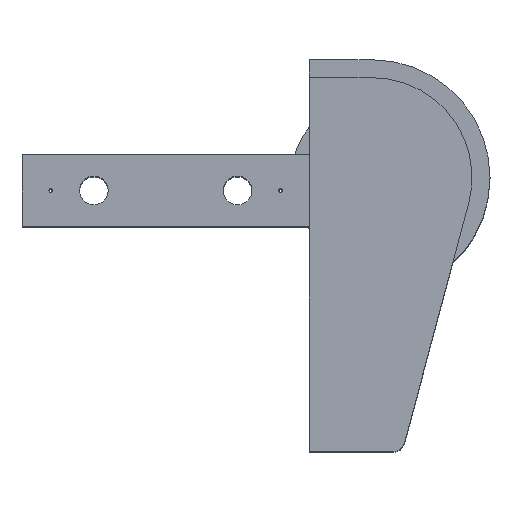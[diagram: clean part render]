
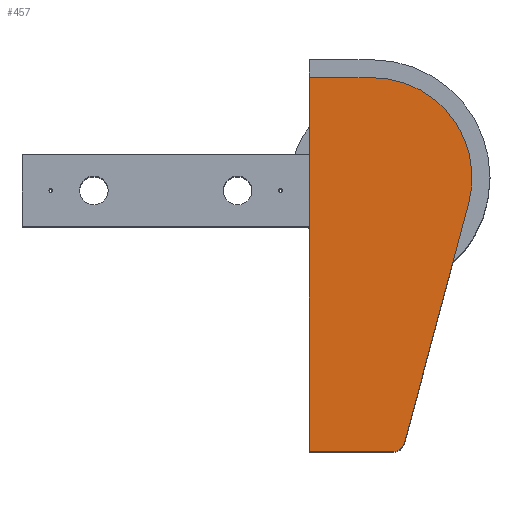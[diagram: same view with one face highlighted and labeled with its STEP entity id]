
A CAD part, top view. The second image highlights one B-rep face of the part: STEP entity #457.
In plain terms, the highlighted planar face has unit normal (0, 0, 1).
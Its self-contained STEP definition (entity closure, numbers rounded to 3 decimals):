
#7 = ORIENTED_EDGE ( 'NONE', *, *, #1292, .T. ) ;
#28 = ORIENTED_EDGE ( 'NONE', *, *, #356, .T. ) ;
#38 = DIRECTION ( 'NONE',  ( -1., 0., 0. ) ) ;
#43 = EDGE_CURVE ( 'NONE', #955, #2262, #1632, .T. ) ;
#62 = ORIENTED_EDGE ( 'NONE', *, *, #315, .T. ) ;
#152 = AXIS2_PLACEMENT_3D ( 'NONE', #392, #2179, #234 ) ;
#189 = EDGE_CURVE ( 'NONE', #2262, #420, #1727, .T. ) ;
#234 = DIRECTION ( 'NONE',  ( -1., 0., 0. ) ) ;
#254 = DIRECTION ( 'NONE',  ( 1., 0., 0. ) ) ;
#276 = VERTEX_POINT ( 'NONE', #2060 ) ;
#285 = CARTESIAN_POINT ( 'NONE',  ( 3249.7, -5., 81.5 ) ) ;
#313 = CARTESIAN_POINT ( 'NONE',  ( 3249.7, -46.4, 81.5 ) ) ;
#315 = EDGE_CURVE ( 'NONE', #420, #1995, #1263, .T. ) ;
#356 = EDGE_CURVE ( 'NONE', #1995, #531, #1380, .T. ) ;
#392 = CARTESIAN_POINT ( 'NONE',  ( 3273.261, -106., 81.5 ) ) ;
#396 = ORIENTED_EDGE ( 'NONE', *, *, #1166, .T. ) ;
#420 = VERTEX_POINT ( 'NONE', #765 ) ;
#457 = ADVANCED_FACE ( 'NONE', ( #2288 ), #1125, .T. ) ;
#498 = DIRECTION ( 'NONE',  ( 0., -1., 0. ) ) ;
#505 = VECTOR ( 'NONE', #498, 1000. ) ;
#531 = VERTEX_POINT ( 'NONE', #285 ) ;
#564 = DIRECTION ( 'NONE',  ( -1., 0., 0. ) ) ;
#617 = CARTESIAN_POINT ( 'NONE',  ( 3273.261, -109., 81.5 ) ) ;
#626 = DIRECTION ( 'NONE',  ( 1., 0., 0. ) ) ;
#713 = CARTESIAN_POINT ( 'NONE',  ( 3267.2, -32.8, 81.5 ) ) ;
#753 = VECTOR ( 'NONE', #1153, 1000. ) ;
#765 = CARTESIAN_POINT ( 'NONE',  ( 3294.053, -39.995, 81.5 ) ) ;
#788 = VECTOR ( 'NONE', #38, 1000. ) ;
#932 = VECTOR ( 'NONE', #626, 1000. ) ;
#933 = ORIENTED_EDGE ( 'NONE', *, *, #43, .T. ) ;
#955 = VERTEX_POINT ( 'NONE', #617 ) ;
#1073 = CARTESIAN_POINT ( 'NONE',  ( 3273.261, -5., 81.5 ) ) ;
#1079 = EDGE_LOOP ( 'NONE', ( #62, #28, #396, #7, #933, #1822 ) ) ;
#1125 = PLANE ( 'NONE',  #1909 ) ;
#1153 = DIRECTION ( 'NONE',  ( 0.259, 0.966, 0. ) ) ;
#1166 = EDGE_CURVE ( 'NONE', #531, #276, #1444, .T. ) ;
#1263 = CIRCLE ( 'NONE', #1848, 27.8 ) ;
#1292 = EDGE_CURVE ( 'NONE', #276, #955, #1915, .T. ) ;
#1380 = LINE ( 'NONE', #1073, #788 ) ;
#1387 = CARTESIAN_POINT ( 'NONE',  ( 3276.159, -106.776, 81.5 ) ) ;
#1444 = LINE ( 'NONE', #313, #505 ) ;
#1499 = CARTESIAN_POINT ( 'NONE',  ( 3273.261, -106., 81.5 ) ) ;
#1507 = CARTESIAN_POINT ( 'NONE',  ( 3276.159, -106.776, 81.5 ) ) ;
#1632 = CIRCLE ( 'NONE', #152, 3. ) ;
#1674 = DIRECTION ( 'NONE',  ( 0., 0., 1. ) ) ;
#1727 = LINE ( 'NONE', #1507, #753 ) ;
#1822 = ORIENTED_EDGE ( 'NONE', *, *, #189, .T. ) ;
#1848 = AXIS2_PLACEMENT_3D ( 'NONE', #713, #2174, #564 ) ;
#1909 = AXIS2_PLACEMENT_3D ( 'NONE', #1499, #1674, #254 ) ;
#1915 = LINE ( 'NONE', #2229, #932 ) ;
#1995 = VERTEX_POINT ( 'NONE', #2147 ) ;
#2060 = CARTESIAN_POINT ( 'NONE',  ( 3249.7, -109., 81.5 ) ) ;
#2147 = CARTESIAN_POINT ( 'NONE',  ( 3267.2, -5., 81.5 ) ) ;
#2174 = DIRECTION ( 'NONE',  ( 0., 0., 1. ) ) ;
#2179 = DIRECTION ( 'NONE',  ( 0., 0., 1. ) ) ;
#2229 = CARTESIAN_POINT ( 'NONE',  ( 3249.7, -109., 81.5 ) ) ;
#2262 = VERTEX_POINT ( 'NONE', #1387 ) ;
#2288 = FACE_OUTER_BOUND ( 'NONE', #1079, .T. ) ;
